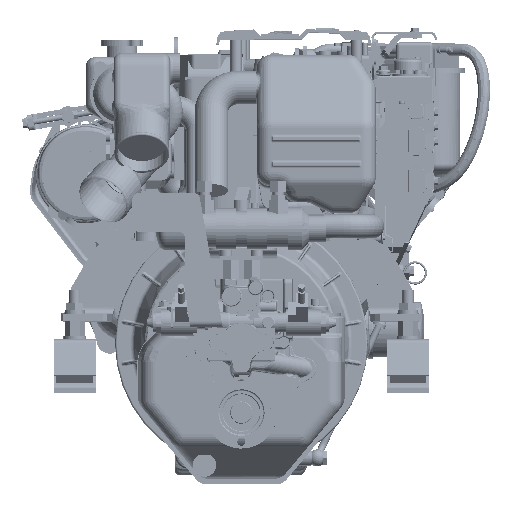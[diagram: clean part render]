
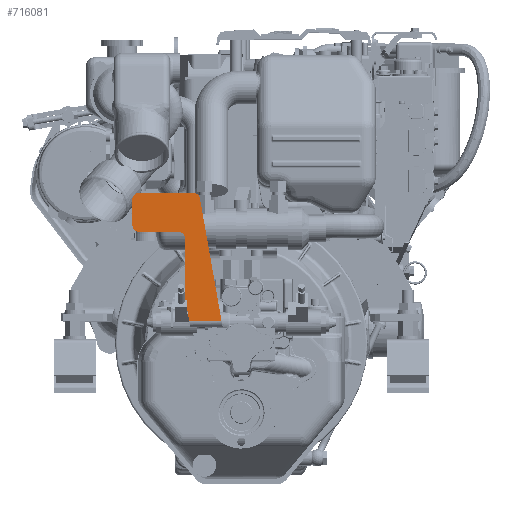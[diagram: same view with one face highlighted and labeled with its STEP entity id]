
A CAD part, top view. The second image highlights one B-rep face of the part: STEP entity #716081.
In plain terms, the highlighted planar face has unit normal (0, 0, 1).
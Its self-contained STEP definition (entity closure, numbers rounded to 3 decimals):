
#685368=CARTESIAN_POINT('',(-73.541,29.5,531.5));
#685370=DIRECTION('',(1.,0.,0.));
#685371=VECTOR('',#685370,45.694);
#685372=CARTESIAN_POINT('',(-73.541,29.5,531.5));
#685373=LINE('',#685372,#685371);
#685417=CARTESIAN_POINT('',(-68.241,201.,531.5));
#685418=DIRECTION('',(0.,0.,-1.));
#685419=DIRECTION('',(0.,1.,0.));
#685420=AXIS2_PLACEMENT_3D('',#685417,#685418,#685419);
#685422=DIRECTION('',(0.174,-0.985,
0.));
#685423=VECTOR('',#685422,175.909);
#685424=CARTESIAN_POINT('',(-58.393,202.736,531.5));
#685425=LINE('',#685424,#685423);
#685426=DIRECTION('',(-0.174,0.985,0.));
#685427=VECTOR('',#685426,29.699);
#685428=CARTESIAN_POINT('',(-73.541,29.5,531.5));
#685429=LINE('',#685428,#685427);
#685430=CARTESIAN_POINT('',(-68.85,60.485,531.5));
#685431=DIRECTION('',(0.,0.,-1.));
#685432=DIRECTION('',(-0.985,-0.174,0.));
#685433=AXIS2_PLACEMENT_3D('',#685430,#685431,#685432);
#685435=CARTESIAN_POINT('',(-88.85,145.5,531.5));
#685436=DIRECTION('',(0.,0.,1.));
#685437=DIRECTION('',(1.,0.,0.));
#685438=AXIS2_PLACEMENT_3D('',#685435,#685436,#685437);
#685440=CARTESIAN_POINT('',(-143.85,165.5,531.5));
#685441=DIRECTION('',(0.,0.,-1.));
#685442=DIRECTION('',(0.,-1.,0.));
#685443=AXIS2_PLACEMENT_3D('',#685440,#685441,#685442);
#685445=CARTESIAN_POINT('',(-143.85,201.,531.5));
#685446=DIRECTION('',(0.,0.,-1.));
#685447=DIRECTION('',(-1.,0.,0.));
#685448=AXIS2_PLACEMENT_3D('',#685445,#685446,#685447);
#685483=DIRECTION('',(-1.,0.,0.));
#685484=VECTOR('',#685483,75.609);
#685485=CARTESIAN_POINT('',(-68.241,211.,531.5));
#685486=LINE('',#685485,#685484);
#685499=DIRECTION('',(0.,-1.,0.));
#685500=VECTOR('',#685499,35.5);
#685501=CARTESIAN_POINT('',(-153.85,201.,531.5));
#685502=LINE('',#685501,#685500);
#685515=DIRECTION('',(1.,0.,0.));
#685516=VECTOR('',#685515,55.);
#685517=CARTESIAN_POINT('',(-143.85,155.5,531.5));
#685518=LINE('',#685517,#685516);
#685531=DIRECTION('',(0.,-1.,0.));
#685532=VECTOR('',#685531,85.015);
#685533=CARTESIAN_POINT('',(-78.85,145.5,531.5));
#685534=LINE('',#685533,#685532);
#693584=VERTEX_POINT('',#685368);
#693585=CARTESIAN_POINT('',(-27.847,29.5,531.5));
#693586=VERTEX_POINT('',#693585);
#693593=CARTESIAN_POINT('',(-58.393,202.736,531.5));
#693595=VERTEX_POINT('',#693593);
#693596=CARTESIAN_POINT('',(-68.241,211.,531.5));
#693597=VERTEX_POINT('',#693596);
#693600=CARTESIAN_POINT('',(-78.698,58.748,531.5));
#693601=VERTEX_POINT('',#693600);
#693602=CARTESIAN_POINT('',(-78.85,60.485,531.5));
#693603=VERTEX_POINT('',#693602);
#693604=CARTESIAN_POINT('',(-78.85,145.5,531.5));
#693605=VERTEX_POINT('',#693604);
#693606=CARTESIAN_POINT('',(-88.85,155.5,531.5));
#693607=VERTEX_POINT('',#693606);
#693608=CARTESIAN_POINT('',(-143.85,155.5,531.5));
#693609=VERTEX_POINT('',#693608);
#693610=CARTESIAN_POINT('',(-153.85,165.5,531.5));
#693611=VERTEX_POINT('',#693610);
#693612=CARTESIAN_POINT('',(-153.85,201.,531.5));
#693613=VERTEX_POINT('',#693612);
#693614=CARTESIAN_POINT('',(-143.85,211.,531.5));
#693615=VERTEX_POINT('',#693614);
#716053=CARTESIAN_POINT('',(-90.848,120.25,531.5));
#716054=DIRECTION('',(0.,0.,1.));
#716055=DIRECTION('',(1.,0.,0.));
#716056=AXIS2_PLACEMENT_3D('',#716053,#716054,#716055);
#716057=PLANE('',#716056);
#716058=ORIENTED_EDGE('',*,*,#716044,.T.);
#716059=ORIENTED_EDGE('',*,*,#716033,.T.);
#716060=ORIENTED_EDGE('',*,*,#715993,.F.);
#716062=ORIENTED_EDGE('',*,*,#716061,.T.);
#716064=ORIENTED_EDGE('',*,*,#716063,.T.);
#716066=ORIENTED_EDGE('',*,*,#716065,.F.);
#716068=ORIENTED_EDGE('',*,*,#716067,.T.);
#716070=ORIENTED_EDGE('',*,*,#716069,.F.);
#716072=ORIENTED_EDGE('',*,*,#716071,.T.);
#716074=ORIENTED_EDGE('',*,*,#716073,.F.);
#716076=ORIENTED_EDGE('',*,*,#716075,.T.);
#716078=ORIENTED_EDGE('',*,*,#716077,.F.);
#716079=EDGE_LOOP('',(#716058,#716059,#716060,#716062,#716064,#716066,#716068,
#716070,#716072,#716074,#716076,#716078));
#716080=FACE_OUTER_BOUND('',#716079,.F.);
#716081=ADVANCED_FACE('',(#716080),#716057,.T.);
#685421=CIRCLE('',#685420,10.);
#685434=CIRCLE('',#685433,10.);
#685439=CIRCLE('',#685438,10.);
#685444=CIRCLE('',#685443,10.);
#685449=CIRCLE('',#685448,10.);
#715993=EDGE_CURVE('',#693584,#693586,#685373,.T.);
#716033=EDGE_CURVE('',#693595,#693586,#685425,.T.);
#716044=EDGE_CURVE('',#693597,#693595,#685421,.T.);
#716061=EDGE_CURVE('',#693584,#693601,#685429,.T.);
#716063=EDGE_CURVE('',#693601,#693603,#685434,.T.);
#716065=EDGE_CURVE('',#693605,#693603,#685534,.T.);
#716067=EDGE_CURVE('',#693605,#693607,#685439,.T.);
#716069=EDGE_CURVE('',#693609,#693607,#685518,.T.);
#716071=EDGE_CURVE('',#693609,#693611,#685444,.T.);
#716073=EDGE_CURVE('',#693613,#693611,#685502,.T.);
#716075=EDGE_CURVE('',#693613,#693615,#685449,.T.);
#716077=EDGE_CURVE('',#693597,#693615,#685486,.T.);
